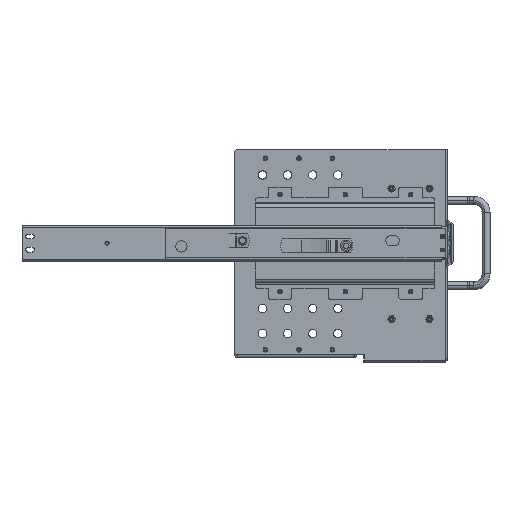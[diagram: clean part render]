
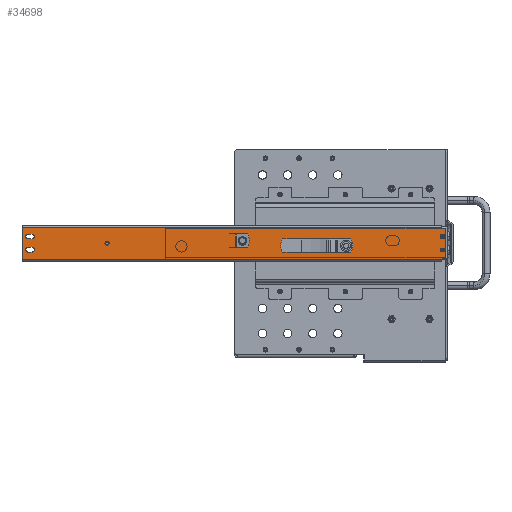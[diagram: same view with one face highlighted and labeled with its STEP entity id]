
A CAD part, left-side view. The second image highlights one B-rep face of the part: STEP entity #34698.
In plain terms, the highlighted planar face has unit normal (-1, 0, 0) as drawn and (1, 0, 0) by its records, which use the part's own axes.
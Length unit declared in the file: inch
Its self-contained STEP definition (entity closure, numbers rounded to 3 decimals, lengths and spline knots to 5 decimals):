
#32856=DIRECTION('',(0.,0.,-1.));
#32857=VECTOR('',#32856,0.174);
#32858=CARTESIAN_POINT('',(0.,0.69,-0.076));
#32859=LINE('',#32858,#32857);
#32863=DIRECTION('',(0.,-1.,0.));
#32864=VECTOR('',#32863,0.063);
#32865=CARTESIAN_POINT('',(0.,0.753,-0.25));
#32866=LINE('',#32865,#32864);
#32870=DIRECTION('',(0.,0.,-1.));
#32871=VECTOR('',#32870,19.75);
#32872=CARTESIAN_POINT('',(0.,-0.753,-0.25));
#32873=LINE('',#32872,#32871);
#32877=DIRECTION('',(0.,1.,0.));
#32878=VECTOR('',#32877,0.063);
#32879=CARTESIAN_POINT('',(0.,-0.753,-0.25));
#32880=LINE('',#32879,#32878);
#32884=DIRECTION('',(0.,0.,-1.));
#32885=VECTOR('',#32884,0.174);
#32886=CARTESIAN_POINT('',(0.,-0.69,-0.076));
#32887=LINE('',#32886,#32885);
#32891=CARTESIAN_POINT('',(0.,0.125,-4.75));
#32892=DIRECTION('',(1.,0.,0.));
#32893=DIRECTION('',(0.,0.,-1.));
#32894=AXIS2_PLACEMENT_3D('',#32891,#32892,#32893);
#32899=CARTESIAN_POINT('',(0.,0.125,-4.75));
#32900=DIRECTION('',(1.,0.,0.));
#32901=DIRECTION('',(0.,0.,1.));
#32902=AXIS2_PLACEMENT_3D('',#32899,#32900,#32901);
#32907=CARTESIAN_POINT('',(0.,0.312,-19.714));
#32908=DIRECTION('',(1.,0.,0.));
#32909=DIRECTION('',(0.,-1.,0.));
#32910=AXIS2_PLACEMENT_3D('',#32907,#32908,#32909);
#32915=DIRECTION('',(0.,0.,1.));
#32916=VECTOR('',#32915,0.188);
#32917=CARTESIAN_POINT('',(0.,0.421,-19.714));
#32918=LINE('',#32917,#32916);
#32922=CARTESIAN_POINT('',(0.,0.312,-19.526));
#32923=DIRECTION('',(1.,0.,0.));
#32924=DIRECTION('',(0.,1.,0.));
#32925=AXIS2_PLACEMENT_3D('',#32922,#32923,#32924);
#32930=DIRECTION('',(0.,0.,-1.));
#32931=VECTOR('',#32930,0.188);
#32932=CARTESIAN_POINT('',(0.,0.203,-19.526));
#32933=LINE('',#32932,#32931);
#32937=DIRECTION('',(0.,0.,1.));
#32938=VECTOR('',#32937,0.188);
#32939=CARTESIAN_POINT('',(0.,-0.204,-19.714));
#32940=LINE('',#32939,#32938);
#32944=CARTESIAN_POINT('',(0.,-0.313,-19.526));
#32945=DIRECTION('',(1.,0.,0.));
#32946=DIRECTION('',(0.,1.,0.));
#32947=AXIS2_PLACEMENT_3D('',#32944,#32945,#32946);
#32952=DIRECTION('',(0.,0.,-1.));
#32953=VECTOR('',#32952,0.188);
#32954=CARTESIAN_POINT('',(0.,-0.422,-19.526));
#32955=LINE('',#32954,#32953);
#32959=CARTESIAN_POINT('',(0.,-0.313,-19.714));
#32960=DIRECTION('',(1.,0.,0.));
#32961=DIRECTION('',(0.,-1.,0.));
#32962=AXIS2_PLACEMENT_3D('',#32959,#32960,#32961);
#32967=CARTESIAN_POINT('',(0.,0.005,-16.));
#32968=DIRECTION('',(1.,0.,0.));
#32969=DIRECTION('',(0.,0.,1.));
#32970=AXIS2_PLACEMENT_3D('',#32967,#32968,#32969);
#32975=CARTESIAN_POINT('',(0.,0.005,-16.));
#32976=DIRECTION('',(1.,0.,0.));
#32977=DIRECTION('',(0.,0.,-1.));
#32978=AXIS2_PLACEMENT_3D('',#32975,#32976,#32977);
#33202=DIRECTION('',(0.,0.,-1.));
#33203=VECTOR('',#33202,19.75);
#33204=CARTESIAN_POINT('',(0.,0.753,-0.25));
#33205=LINE('',#33204,#33203);
#33230=DIRECTION('',(0.,1.,0.));
#33231=VECTOR('',#33230,1.506);
#33232=CARTESIAN_POINT('',(0.,-0.753,-20.));
#33233=LINE('',#33232,#33231);
#33488=DIRECTION('',(0.,-1.,0.));
#33489=VECTOR('',#33488,1.38);
#33490=CARTESIAN_POINT('',(0.,0.69,-0.076));
#33491=LINE('',#33490,#33489);
#33786=CARTESIAN_POINT('',(0.,-0.753,-20.));
#33787=VERTEX_POINT('',#33786);
#33788=CARTESIAN_POINT('',(0.,0.753,-20.));
#33789=VERTEX_POINT('',#33788);
#33815=CARTESIAN_POINT('',(0.,-0.753,-0.25));
#33817=VERTEX_POINT('',#33815);
#33818=CARTESIAN_POINT('',(0.,0.753,-0.25));
#33819=CARTESIAN_POINT('',(0.,0.69,-0.25));
#33820=VERTEX_POINT('',#33818);
#33821=VERTEX_POINT('',#33819);
#33822=CARTESIAN_POINT('',(0.,-0.69,-0.25));
#33823=VERTEX_POINT('',#33822);
#33858=CARTESIAN_POINT('',(0.,-0.69,-0.076));
#33859=VERTEX_POINT('',#33858);
#33860=CARTESIAN_POINT('',(0.,0.69,-0.076));
#33861=VERTEX_POINT('',#33860);
#33914=CARTESIAN_POINT('',(0.,0.125,-5.0155));
#33915=CARTESIAN_POINT('',(0.,0.125,-4.4845));
#33916=VERTEX_POINT('',#33914);
#33917=VERTEX_POINT('',#33915);
#33922=CARTESIAN_POINT('',(0.,0.203,-19.714));
#33923=CARTESIAN_POINT('',(0.,0.421,-19.714));
#33924=VERTEX_POINT('',#33922);
#33925=VERTEX_POINT('',#33923);
#33926=CARTESIAN_POINT('',(0.,0.421,-19.526));
#33927=VERTEX_POINT('',#33926);
#33928=CARTESIAN_POINT('',(0.,0.203,-19.526));
#33929=VERTEX_POINT('',#33928);
#33930=CARTESIAN_POINT('',(0.,-0.204,-19.714));
#33931=CARTESIAN_POINT('',(0.,-0.204,-19.526));
#33932=VERTEX_POINT('',#33930);
#33933=VERTEX_POINT('',#33931);
#33934=CARTESIAN_POINT('',(0.,-0.422,-19.526));
#33935=VERTEX_POINT('',#33934);
#33936=CARTESIAN_POINT('',(0.,-0.422,-19.714));
#33937=VERTEX_POINT('',#33936);
#34010=CARTESIAN_POINT('',(0.,0.005,-15.935));
#34011=CARTESIAN_POINT('',(0.,0.005,-16.065));
#34012=VERTEX_POINT('',#34010);
#34013=VERTEX_POINT('',#34011);
#34646=CARTESIAN_POINT('',(0.,-0.753,0.));
#34647=DIRECTION('',(1.,0.,0.));
#34648=DIRECTION('',(0.,1.,0.));
#34649=AXIS2_PLACEMENT_3D('',#34646,#34647,#34648);
#34650=PLANE('',#34649);
#34651=ORIENTED_EDGE('',*,*,#34629,.T.);
#34653=ORIENTED_EDGE('',*,*,#34652,.F.);
#34655=ORIENTED_EDGE('',*,*,#34654,.T.);
#34657=ORIENTED_EDGE('',*,*,#34656,.F.);
#34658=ORIENTED_EDGE('',*,*,#34502,.F.);
#34659=ORIENTED_EDGE('',*,*,#34529,.T.);
#34661=ORIENTED_EDGE('',*,*,#34660,.F.);
#34663=ORIENTED_EDGE('',*,*,#34662,.F.);
#34664=EDGE_LOOP('',(#34651,#34653,#34655,#34657,#34658,#34659,#34661,#34663));
#34665=FACE_OUTER_BOUND('',#34664,.F.);
#34667=ORIENTED_EDGE('',*,*,#34666,.T.);
#34669=ORIENTED_EDGE('',*,*,#34668,.T.);
#34670=EDGE_LOOP('',(#34667,#34669));
#34671=FACE_BOUND('',#34670,.F.);
#34673=ORIENTED_EDGE('',*,*,#34672,.T.);
#34675=ORIENTED_EDGE('',*,*,#34674,.T.);
#34677=ORIENTED_EDGE('',*,*,#34676,.T.);
#34679=ORIENTED_EDGE('',*,*,#34678,.T.);
#34680=EDGE_LOOP('',(#34673,#34675,#34677,#34679));
#34681=FACE_BOUND('',#34680,.F.);
#34683=ORIENTED_EDGE('',*,*,#34682,.T.);
#34685=ORIENTED_EDGE('',*,*,#34684,.T.);
#34687=ORIENTED_EDGE('',*,*,#34686,.T.);
#34689=ORIENTED_EDGE('',*,*,#34688,.T.);
#34690=EDGE_LOOP('',(#34683,#34685,#34687,#34689));
#34691=FACE_BOUND('',#34690,.F.);
#34693=ORIENTED_EDGE('',*,*,#34692,.T.);
#34695=ORIENTED_EDGE('',*,*,#34694,.T.);
#34696=EDGE_LOOP('',(#34693,#34695));
#34697=FACE_BOUND('',#34696,.F.);
#34698=ADVANCED_FACE('',(#34665,#34671,#34681,#34691,#34697),#34650,.T.);
#32895=CIRCLE('',#32894,0.2655);
#32903=CIRCLE('',#32902,0.2655);
#32911=CIRCLE('',#32910,0.109);
#32926=CIRCLE('',#32925,0.109);
#32948=CIRCLE('',#32947,0.109);
#32963=CIRCLE('',#32962,0.109);
#32971=CIRCLE('',#32970,0.065);
#32979=CIRCLE('',#32978,0.065);
#34502=EDGE_CURVE('',#33817,#33787,#32873,.T.);
#34529=EDGE_CURVE('',#33817,#33823,#32880,.T.);
#34629=EDGE_CURVE('',#33861,#33821,#32859,.T.);
#34652=EDGE_CURVE('',#33820,#33821,#32866,.T.);
#34654=EDGE_CURVE('',#33820,#33789,#33205,.T.);
#34656=EDGE_CURVE('',#33787,#33789,#33233,.T.);
#34660=EDGE_CURVE('',#33859,#33823,#32887,.T.);
#34662=EDGE_CURVE('',#33861,#33859,#33491,.T.);
#34666=EDGE_CURVE('',#33916,#33917,#32895,.T.);
#34668=EDGE_CURVE('',#33917,#33916,#32903,.T.);
#34672=EDGE_CURVE('',#33924,#33925,#32911,.T.);
#34674=EDGE_CURVE('',#33925,#33927,#32918,.T.);
#34676=EDGE_CURVE('',#33927,#33929,#32926,.T.);
#34678=EDGE_CURVE('',#33929,#33924,#32933,.T.);
#34682=EDGE_CURVE('',#33932,#33933,#32940,.T.);
#34684=EDGE_CURVE('',#33933,#33935,#32948,.T.);
#34686=EDGE_CURVE('',#33935,#33937,#32955,.T.);
#34688=EDGE_CURVE('',#33937,#33932,#32963,.T.);
#34692=EDGE_CURVE('',#34012,#34013,#32971,.T.);
#34694=EDGE_CURVE('',#34013,#34012,#32979,.T.);
